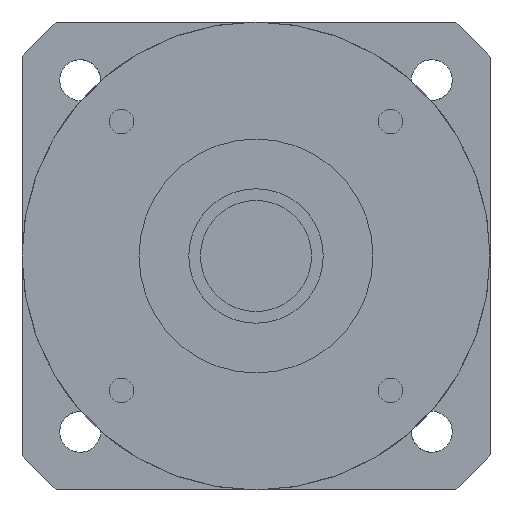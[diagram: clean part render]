
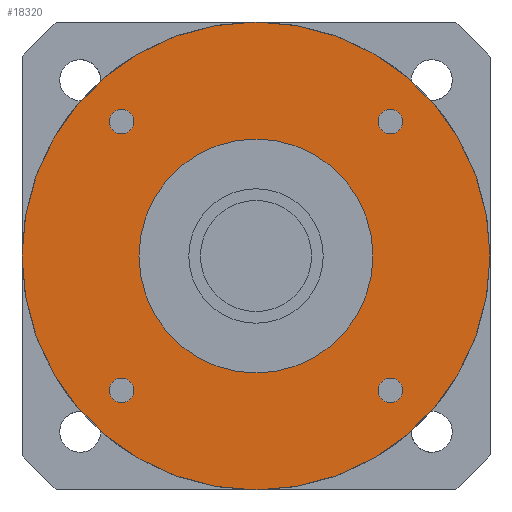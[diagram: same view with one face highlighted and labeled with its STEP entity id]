
A CAD part, left-side view. The second image highlights one B-rep face of the part: STEP entity #18320.
In plain terms, the highlighted planar face has unit normal (-1, 0, 0) as drawn and (0, 0, -1) by its records, which use the part's own axes.
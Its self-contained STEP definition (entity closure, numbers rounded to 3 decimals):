
#13830=CARTESIAN_POINT('',(-25.081,-22.981,-42.));
#13840=VERTEX_POINT('',#13830);
#14020=CARTESIAN_POINT('',(-20.881,-22.981,-42.));
#14030=VERTEX_POINT('',#14020);
#14060=CARTESIAN_POINT('',(-22.981,-22.981,-42.));
#14070=DIRECTION('',(0.,0.,-1.));
#14080=DIRECTION('',(1.,0.,0.));
#14090=AXIS2_PLACEMENT_3D('',#14060,#14070,#14080);
#14100=CIRCLE('',#14090,2.1);
#14110=EDGE_CURVE('',#13840,#14030,#14100,.T.);
#14250=CARTESIAN_POINT('',(-20.,0.,-42.));
#14260=VERTEX_POINT('',#14250);
#14440=CARTESIAN_POINT('',(20.,0.,-42.));
#14450=VERTEX_POINT('',#14440);
#14480=CARTESIAN_POINT('',(0.,0.,
-42.));
#14490=DIRECTION('',(0.,0.,1.));
#14500=DIRECTION('',(-1.,0.,0.));
#14510=AXIS2_PLACEMENT_3D('',#14480,#14490,#14500);
#14520=CIRCLE('',#14510,20.);
#14530=EDGE_CURVE('',#14450,#14260,#14520,.T.);
#17440=CARTESIAN_POINT('',(-40.,0.,-42.));
#17450=VERTEX_POINT('',#17440);
#17480=CARTESIAN_POINT('',(0.,0.,-42.));
#17490=DIRECTION('',(0.,0.,-1.));
#17500=DIRECTION('',(1.,0.,0.));
#17510=AXIS2_PLACEMENT_3D('',#17480,#17490,#17500);
#17520=CIRCLE('',#17510,40.);
#17530=CARTESIAN_POINT('',(40.,0.,-42.));
#17540=VERTEX_POINT('',#17530);
#17550=EDGE_CURVE('',#17450,#17540,#17520,.T.);
#17670=CARTESIAN_POINT('',(0.,0.,-42.));
#17680=DIRECTION('',(0.,0.,1.));
#17690=DIRECTION('',(1.,0.,0.));
#17700=AXIS2_PLACEMENT_3D('',#17670,#17680,#17690);
#17710=PLANE('',#17700);
#17720=CARTESIAN_POINT('',(-22.981,22.981,-42.));
#17730=DIRECTION('',(0.,0.,-1.));
#17740=DIRECTION('',(1.,0.,0.));
#17750=AXIS2_PLACEMENT_3D('',#17720,#17730,#17740);
#17760=CIRCLE('',#17750,2.1);
#17770=CARTESIAN_POINT('',(-20.881,22.981,-42.));
#17780=VERTEX_POINT('',#17770);
#17790=CARTESIAN_POINT('',(-25.081,22.981,-42.));
#17800=VERTEX_POINT('',#17790);
#17810=EDGE_CURVE('',#17780,#17800,#17760,.T.);
#17820=ORIENTED_EDGE('',*,*,#17810,.F.);
#17830=EDGE_CURVE('',#17800,#17780,#17760,.T.);
#17840=ORIENTED_EDGE('',*,*,#17830,.F.);
#17850=EDGE_LOOP('',(#17840,#17820));
#17860=FACE_BOUND('',#17850,.T.);
#17870=CARTESIAN_POINT('',(22.981,22.981,-42.));
#17880=DIRECTION('',(0.,0.,-1.));
#17890=DIRECTION('',(1.,0.,0.));
#17900=AXIS2_PLACEMENT_3D('',#17870,#17880,#17890);
#17910=CIRCLE('',#17900,2.1);
#17920=CARTESIAN_POINT('',(25.081,22.981,-42.));
#17930=VERTEX_POINT('',#17920);
#17940=CARTESIAN_POINT('',(20.881,22.981,-42.));
#17950=VERTEX_POINT('',#17940);
#17960=EDGE_CURVE('',#17930,#17950,#17910,.T.);
#17970=ORIENTED_EDGE('',*,*,#17960,.F.);
#17980=EDGE_CURVE('',#17950,#17930,#17910,.T.);
#17990=ORIENTED_EDGE('',*,*,#17980,.F.);
#18000=EDGE_LOOP('',(#17990,#17970));
#18010=FACE_BOUND('',#18000,.T.);
#18020=CARTESIAN_POINT('',(22.981,-22.981,-42.));
#18030=DIRECTION('',(0.,0.,-1.));
#18040=DIRECTION('',(1.,0.,0.));
#18050=AXIS2_PLACEMENT_3D('',#18020,#18030,#18040);
#18060=CIRCLE('',#18050,2.1);
#18070=CARTESIAN_POINT('',(25.081,-22.981,-42.));
#18080=VERTEX_POINT('',#18070);
#18090=CARTESIAN_POINT('',(20.881,-22.981,-42.));
#18100=VERTEX_POINT('',#18090);
#18110=EDGE_CURVE('',#18080,#18100,#18060,.T.);
#18120=ORIENTED_EDGE('',*,*,#18110,.F.);
#18130=EDGE_CURVE('',#18100,#18080,#18060,.T.);
#18140=ORIENTED_EDGE('',*,*,#18130,.F.);
#18150=EDGE_LOOP('',(#18140,#18120));
#18160=FACE_BOUND('',#18150,.T.);
#18170=EDGE_CURVE('',#14260,#14450,#14520,.T.);
#18180=ORIENTED_EDGE('',*,*,#18170,.T.);
#18190=ORIENTED_EDGE('',*,*,#14530,.T.);
#18200=EDGE_LOOP('',(#18190,#18180));
#18210=FACE_BOUND('',#18200,.T.);
#18220=EDGE_CURVE('',#14030,#13840,#14100,.T.);
#18230=ORIENTED_EDGE('',*,*,#18220,.F.);
#18240=ORIENTED_EDGE('',*,*,#14110,.F.);
#18250=EDGE_LOOP('',(#18240,#18230));
#18260=FACE_BOUND('',#18250,.T.);
#18270=EDGE_CURVE('',#17540,#17450,#17520,.T.);
#18280=ORIENTED_EDGE('',*,*,#18270,.T.);
#18290=ORIENTED_EDGE('',*,*,#17550,.T.);
#18300=EDGE_LOOP('',(#18290,#18280));
#18310=FACE_OUTER_BOUND('',#18300,.T.);
#18320=ADVANCED_FACE('',(#17860,#18010,#18160,#18210,#18260,#18310),
#17710,.F.);
